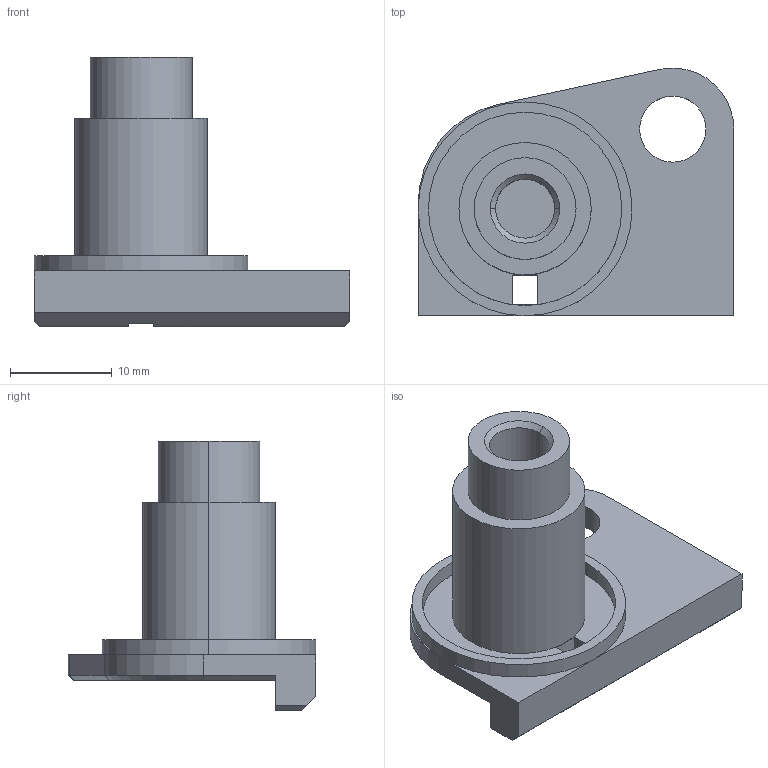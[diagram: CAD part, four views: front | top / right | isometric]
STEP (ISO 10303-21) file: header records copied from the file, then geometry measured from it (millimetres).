
FILE_DESCRIPTION (( 'STEP AP214' ), '1' );
FILE_NAME ('Tensioner Adapter.STEP', '2026-05-01T06:37:28', ( '' ), ( '' ), 'SwSTEP 2.0', 'SolidWorks 2022', '' );
FILE_SCHEMA (( 'AUTOMOTIVE_DESIGN' ));
Length unit declared in the file: millimetre
Products named in the file (1): Tensioner Adapter
Bounding box: 31 x 24.33 x 26.5 mm (x, y, z)
Volume: 3882.8 mm3; surface area: 3134.1 mm2
Topology: 1 solids, 1 shells, 46 faces, 115 edges, 72 vertices
Faces by surface type: plane 28, cylinder 14, cone 4
Entity records: 1405 total; most frequent: DIRECTION 245, CARTESIAN_POINT 234, ORIENTED_EDGE 230, EDGE_CURVE 115, AXIS2_PLACEMENT_3D 83, LINE 79, VECTOR 79, VERTEX_POINT 72
